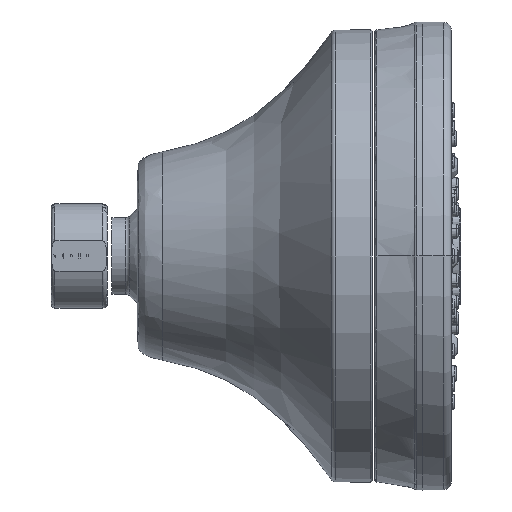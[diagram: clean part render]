
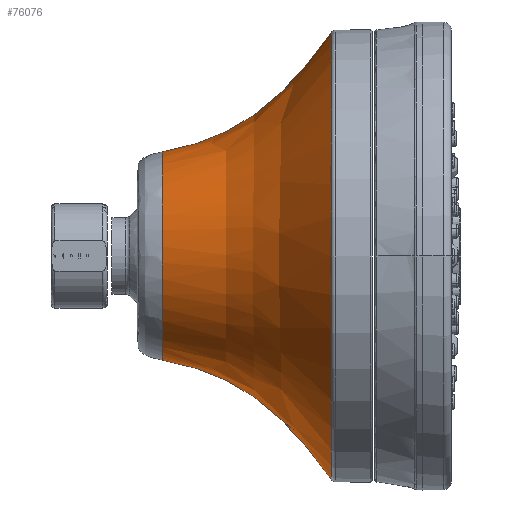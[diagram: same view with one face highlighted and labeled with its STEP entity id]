
A CAD part, left-side view. The second image highlights one B-rep face of the part: STEP entity #76076.
In plain terms, the highlighted free-form (B-spline) face has degree [3, 3] with [5, 4] control points.
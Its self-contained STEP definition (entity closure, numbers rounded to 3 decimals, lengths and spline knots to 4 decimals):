
#1160 = CARTESIAN_POINT ( 'NONE',  ( -1.8135, 1.8357, -0.9068 ) ) ;
#2592 = CIRCLE ( 'NONE', #123517, 1.9488 ) ;
#5613 = CARTESIAN_POINT ( 'NONE',  ( -1.8135, 1.8357, 0.9068 ) ) ;
#7126 = CARTESIAN_POINT ( 'NONE',  ( -2.0355, 1.2235, 1.0178 ) ) ;
#8028 = EDGE_CURVE ( 'NONE', #109362, #12850, #140155, .T. ) ;
#8064 = DIRECTION ( 'NONE',  ( 0., 0., 1. ) ) ;
#8203 = EDGE_CURVE ( 'NONE', #71879, #22505, #82690, .T. ) ;
#12519 = CARTESIAN_POINT ( 'NONE',  ( 0., 0.3647, 1.9488 ) ) ;
#12744 = EDGE_CURVE ( 'NONE', #12850, #22505, #2592, .T. ) ;
#12850 = VERTEX_POINT ( 'NONE', #12519 ) ;
#18468 = CARTESIAN_POINT ( 'NONE',  ( 0., 1.2235, 1.0178 ) ) ;
#21548 = CARTESIAN_POINT ( 'NONE',  ( 0., 1.2235, 1.0178 ) ) ;
#22478 = CARTESIAN_POINT ( 'NONE',  ( 0., 0.37, -1.9412 ) ) ;
#22505 = VERTEX_POINT ( 'NONE', #98915 ) ;
#26863 = CARTESIAN_POINT ( 'NONE',  ( 0., 1.8357, -0.9068 ) ) ;
#29074 = CARTESIAN_POINT ( 'NONE',  ( 0., 1.8357, -0.9068 ) ) ;
#30581 = CARTESIAN_POINT ( 'NONE',  ( 0., 0.37, -1.9412 ) ) ;
#31508 = CARTESIAN_POINT ( 'NONE',  ( 0., 0.3647, 0. ) ) ;
#31625 = CARTESIAN_POINT ( 'NONE',  ( 0., 1.2235, -1.0178 ) ) ;
#31818 =( BOUNDED_CURVE ( )  B_SPLINE_CURVE ( 3, ( #102673, #56486, #1160, #114038 ),
 .UNSPECIFIED., .F., .F. ) 
 B_SPLINE_CURVE_WITH_KNOTS ( ( 4, 4 ),
 ( 0., 1. ),
 .UNSPECIFIED. ) 
 CURVE ( )  GEOMETRIC_REPRESENTATION_ITEM ( )  RATIONAL_B_SPLINE_CURVE ( ( 1., 0.333, 0.333, 1. ) ) 
 REPRESENTATION_ITEM ( '' )  );
#32059 = CARTESIAN_POINT ( 'NONE',  ( 0., 0.3647, 1.9488 ) ) ;
#34045 = ORIENTED_EDGE ( 'NONE', *, *, #12744, .F. ) ;
#41220 = CARTESIAN_POINT ( 'NONE',  ( 0., 0.8187, 1.3025 ) ) ;
#41968 = CARTESIAN_POINT ( 'NONE',  ( -3.8825, 0.37, -1.9412 ) ) ;
#53323 = CARTESIAN_POINT ( 'NONE',  ( 0., 1.8357, 0.9068 ) ) ;
#56401 = CARTESIAN_POINT ( 'NONE',  ( 0., 0.8187, 1.3025 ) ) ;
#56486 = CARTESIAN_POINT ( 'NONE',  ( -1.8135, 1.8357, 0.9068 ) ) ;
#63177 = CARTESIAN_POINT ( 'NONE',  ( -3.8977, 0.3647, 1.9488 ) ) ;
#63934 = CARTESIAN_POINT ( 'NONE',  ( -2.6051, 0.8187, -1.3025 ) ) ;
#71879 = VERTEX_POINT ( 'NONE', #26863 ) ;
#73055 = ORIENTED_EDGE ( 'NONE', *, *, #8028, .F. ) ;
#75316 = CARTESIAN_POINT ( 'NONE',  ( 0., 0.8187, -1.3025 ) ) ;
#76076 = ADVANCED_FACE ( 'NONE', ( #78299 ), #118526, .T. ) ;
#78299 = FACE_OUTER_BOUND ( 'NONE', #100841, .T. ) ;
#78595 = CARTESIAN_POINT ( 'NONE',  ( 0., 0.8187, -1.3025 ) ) ;
#79052 = CARTESIAN_POINT ( 'NONE',  ( 0., 1.8357, 0.9068 ) ) ;
#82690 = B_SPLINE_CURVE_WITH_KNOTS ( 'NONE', 3,
 ( #89934, #31625, #78595, #22478, #135419 ),
 .UNSPECIFIED., .F., .F.,
 ( 4, 1, 4 ),
 ( 0., 0.9882, 1. ),
 .UNSPECIFIED. ) ;
#87416 = CARTESIAN_POINT ( 'NONE',  ( -2.6051, 0.8187, 1.3025 ) ) ;
#89934 = CARTESIAN_POINT ( 'NONE',  ( 0., 1.8357, -0.9068 ) ) ;
#98758 = CARTESIAN_POINT ( 'NONE',  ( -2.0355, 1.2235, -1.0178 ) ) ;
#98915 = CARTESIAN_POINT ( 'NONE',  ( 0., 0.3647, -1.9488 ) ) ;
#100121 = ORIENTED_EDGE ( 'NONE', *, *, #121918, .T. ) ;
#100841 = EDGE_LOOP ( 'NONE', ( #100121, #142424, #34045, #73055 ) ) ;
#101921 = DIRECTION ( 'NONE',  ( 0., -1., 0. ) ) ;
#102589 = CARTESIAN_POINT ( 'NONE',  ( 0., 0.37, 1.9412 ) ) ;
#102673 = CARTESIAN_POINT ( 'NONE',  ( 0., 1.8357, 0.9068 ) ) ;
#109362 = VERTEX_POINT ( 'NONE', #79052 ) ;
#110138 = CARTESIAN_POINT ( 'NONE',  ( 0., 1.2235, -1.0178 ) ) ;
#114038 = CARTESIAN_POINT ( 'NONE',  ( 0., 1.8357, -0.9068 ) ) ;
#118526 =( BOUNDED_SURFACE ( )  B_SPLINE_SURFACE ( 3, 3, ( 
 ( #29074, #122273, #5613, #53323 ),
 ( #110138, #98758, #7126, #18468 ),
 ( #75316, #63934, #87416, #41220 ),
 ( #30581, #41968, #133635, #121513 ),
 ( #144253, #124491, #63177, #32059 ) ),
 .UNSPECIFIED., .F., .F., .F. ) 
 B_SPLINE_SURFACE_WITH_KNOTS ( ( 4, 1, 4 ),
 ( 4, 4 ),
 ( 0.0091, 0.9806, 0.9922 ),
 ( 0., 1. ),
 .UNSPECIFIED. ) 
 GEOMETRIC_REPRESENTATION_ITEM ( )  RATIONAL_B_SPLINE_SURFACE ( (
 ( 1., 0.333, 0.333, 1.),
 ( 1., 0.333, 0.333, 1.),
 ( 1., 0.333, 0.333, 1.),
 ( 1., 0.333, 0.333, 1.),
 ( 1., 0.333, 0.333, 1.) ) ) 
 REPRESENTATION_ITEM ( '' )  SURFACE ( )  );
#121513 = CARTESIAN_POINT ( 'NONE',  ( 0., 0.37, 1.9412 ) ) ;
#121918 = EDGE_CURVE ( 'NONE', #109362, #71879, #31818, .T. ) ;
#122273 = CARTESIAN_POINT ( 'NONE',  ( -1.8135, 1.8357, -0.9068 ) ) ;
#123517 = AXIS2_PLACEMENT_3D ( 'NONE', #31508, #101921, #8064 ) ;
#124491 = CARTESIAN_POINT ( 'NONE',  ( -3.8977, 0.3647, -1.9488 ) ) ;
#125344 = CARTESIAN_POINT ( 'NONE',  ( 0., 1.8357, 0.9068 ) ) ;
#133635 = CARTESIAN_POINT ( 'NONE',  ( -3.8825, 0.37, 1.9412 ) ) ;
#135419 = CARTESIAN_POINT ( 'NONE',  ( 0., 0.3647, -1.9488 ) ) ;
#137446 = CARTESIAN_POINT ( 'NONE',  ( 0., 0.3647, 1.9488 ) ) ;
#140155 = B_SPLINE_CURVE_WITH_KNOTS ( 'NONE', 3,
 ( #125344, #21548, #56401, #102589, #137446 ),
 .UNSPECIFIED., .F., .F.,
 ( 4, 1, 4 ),
 ( 0., 0.9882, 1. ),
 .UNSPECIFIED. ) ;
#142424 = ORIENTED_EDGE ( 'NONE', *, *, #8203, .T. ) ;
#144253 = CARTESIAN_POINT ( 'NONE',  ( 0., 0.3647, -1.9488 ) ) ;
